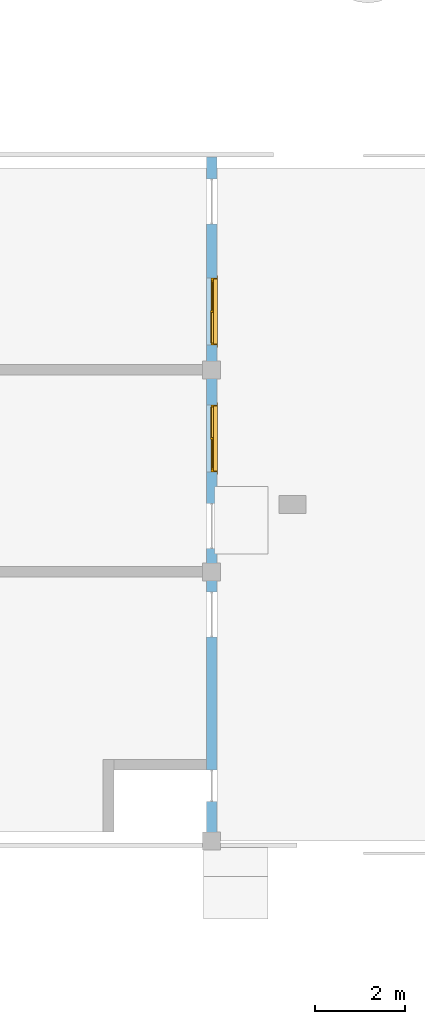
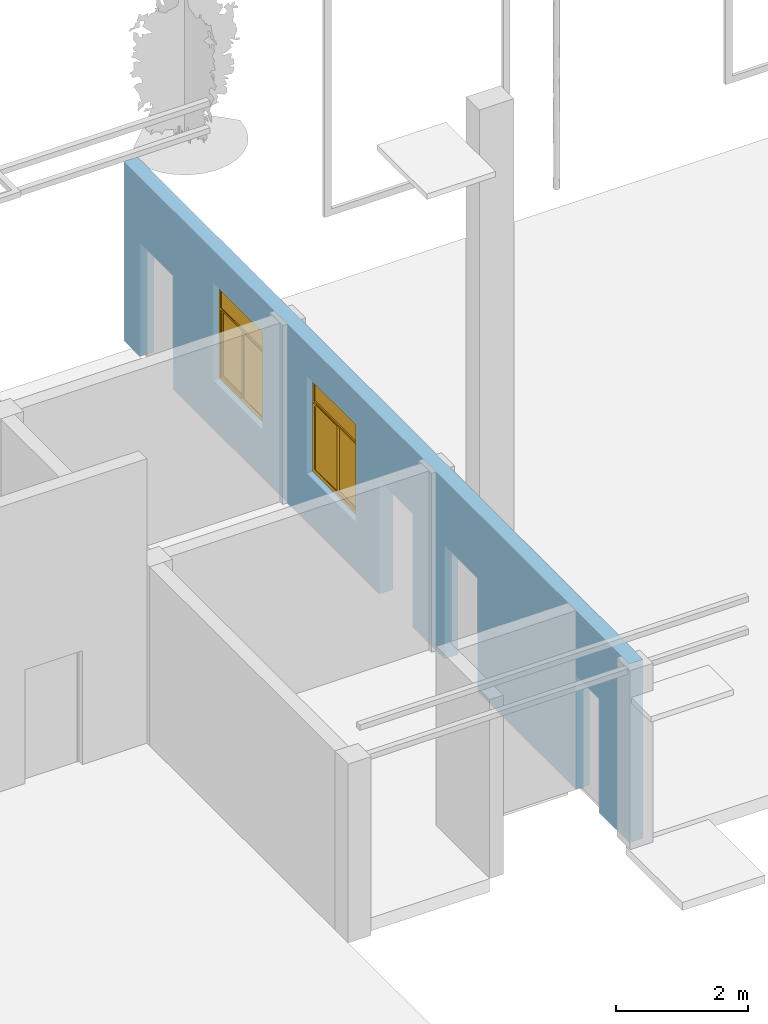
# One storey, part 5 of 14: 2 windows, 6 openings, plus 1 element that does not belong to this part.
"""IFC2X3 building model written with IfcOpenShell, lengths in millimetres."""

from ifc_helpers import new_model, entity, si_unit, converted_unit, derived_unit, direction, frame, frame_2d, origin, place, context, subcontext, project, spatial, rectangle, extrude, faceted_brep, source, transform, mapped, material, material_list, layer, layer_set, layer_usage, type_object, type_shapes, element, fill, save


model = new_model("IFC2X3")

# Units and contexts
model_context = context("Model", 3, precision=0.01, world=origin(), true_north=direction((6.12303176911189e-17, 1.0)))
body_context = subcontext(model_context, "Body", "Model", "MODEL_VIEW")
ifc_project = project(units=[si_unit("LENGTHUNIT", "METRE", prefix="MILLI"), si_unit("AREAUNIT", "SQUARE_METRE"), si_unit("VOLUMEUNIT", "CUBIC_METRE"), converted_unit("PLANEANGLEUNIT", "DEGREE", entity("IfcRatioMeasure", 0.0174532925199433), si_unit("PLANEANGLEUNIT", "RADIAN"), dimensions=[0, 0, 0, 0, 0, 0, 0]), si_unit("MASSUNIT", "GRAM", prefix="KILO"), derived_unit("MASSDENSITYUNIT", [(si_unit("MASSUNIT", "GRAM", prefix="KILO"), 1), (si_unit("LENGTHUNIT", "METRE"), -3)]), si_unit("TIMEUNIT", "SECOND"), si_unit("FREQUENCYUNIT", "HERTZ"), si_unit("THERMODYNAMICTEMPERATUREUNIT", "DEGREE_CELSIUS"), derived_unit("THERMALTRANSMITTANCEUNIT", [(si_unit("MASSUNIT", "GRAM", prefix="KILO"), 1), (si_unit("THERMODYNAMICTEMPERATUREUNIT", "KELVIN"), -1), (si_unit("TIMEUNIT", "SECOND"), -3)]), derived_unit("VOLUMETRICFLOWRATEUNIT", [(si_unit("LENGTHUNIT", "METRE"), 3), (si_unit("TIMEUNIT", "SECOND"), -1)]), si_unit("ELECTRICCURRENTUNIT", "AMPERE"), si_unit("ELECTRICVOLTAGEUNIT", "VOLT"), si_unit("POWERUNIT", "WATT"), si_unit("FORCEUNIT", "NEWTON", prefix="KILO"), si_unit("ILLUMINANCEUNIT", "LUX"), si_unit("LUMINOUSFLUXUNIT", "LUMEN"), si_unit("LUMINOUSINTENSITYUNIT", "CANDELA"), derived_unit("USERDEFINED", [(si_unit("MASSUNIT", "GRAM", prefix="KILO"), -1), (si_unit("LENGTHUNIT", "METRE"), -2), (si_unit("TIMEUNIT", "SECOND"), 3), (si_unit("LUMINOUSFLUXUNIT", "LUMEN"), 1)]), derived_unit("LINEARVELOCITYUNIT", [(si_unit("LENGTHUNIT", "METRE"), 1), (si_unit("TIMEUNIT", "SECOND"), -1)]), si_unit("PRESSUREUNIT", "PASCAL"), derived_unit("USERDEFINED", [(si_unit("LENGTHUNIT", "METRE"), -2), (si_unit("MASSUNIT", "GRAM", prefix="KILO"), 1), (si_unit("TIMEUNIT", "SECOND"), -2)])], contexts=[model_context])

# Site, building, storey
site_placement = place(None, origin())
site = spatial("IfcSite", under=ifc_project, at=site_placement, Name="表面", CompositionType="ELEMENT")
building_placement = place(site_placement, origin())
building = spatial("IfcBuilding", under=site, at=building_placement, CompositionType="ELEMENT")
storey_placement = place(building_placement, origin())
storey = spatial("IfcBuildingStorey", under=building, at=storey_placement, Name="±0.000", CompositionType="ELEMENT", Elevation=0.0)

# Wall, openings, windows
ifc_material_1 = material(Name="砖石建筑 - 砖")
ifc_layer = layer(ifc_material_1, 240.0)
ifc_layer_set = layer_set([ifc_layer], Name="基本墙:内砖墙240mm")
ifc_layer_usage = layer_usage(ifc_layer_set, "AXIS2", "NEGATIVE", 120.0)
wall_type = type_object("IfcWallType", Name="基本墙:内砖墙240mm", PredefinedType="STANDARD", material=ifc_layer_set)
wall_placement = place(storey_placement, frame((-33528.798781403, 15849.6974073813, 0.0), z_axis=(0.0, 0.0, 1.0), x_axis=(0.0, -1.0, 0.0)))
wall = element("IfcWallStandardCase", 1, at=wall_placement, inside=storey, type_object=wall_type, material=ifc_layer_usage, Name="基本墙:内砖墙240mm", ObjectType="基本墙:内砖墙240mm", context=body_context, shape_type="SweptSolid", body=[
    extrude(rectangle(XDim=15280.0, YDim=239.999999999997, at=frame_2d((7639.99999999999, 2.34479102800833e-13), x_axis=(-1.0, 0.0))), origin(), (0.0, 0.0, 1.0), 3300.0),
])
opening_1_placement = place(wall_placement, frame((7720.0, -120.0, 0.0)))
element("IfcOpeningElement", 2, at=opening_1_placement, cuts=wall, Name="单开门:M5:1", ObjectType="Opening", context=body_context, shape_type="SweptSolid", body=[
    extrude(rectangle(XDim=2100.0, YDim=1000.0, at=frame_2d((1050.0, 500.0), x_axis=(1.0, 0.0))), frame((0.0, 0.0, 0.0), z_axis=(0.0, 1.0, 0.0), x_axis=(0.0, 0.0, 1.0)), (0.0, 0.0, 1.0), 240.0),
])
opening_2_placement = place(wall_placement, frame((1490.0, 120.0, 0.0)))
element("IfcOpeningElement", 3, at=opening_2_placement, cuts=wall, Name="单开门:M5:1", ObjectType="Opening", context=body_context, shape_type="SweptSolid", body=[
    extrude(rectangle(XDim=2100.0, YDim=1000.0, at=frame_2d((1050.0, 500.0), x_axis=(1.0, 0.0))), frame((0.0, 0.0, 0.0), z_axis=(0.0, -1.0, 0.0), x_axis=(0.0, 0.0, 1.0)), (0.0, 0.0, 1.0), 240.0),
])
opening_3_placement = place(wall_placement, frame((10690.0021645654, 120.0, 0.0)))
element("IfcOpeningElement", 4, at=opening_3_placement, cuts=wall, Name="单开门:M5:1", ObjectType="Opening", context=body_context, shape_type="SweptSolid", body=[
    extrude(rectangle(XDim=2100.0, YDim=1000.0, at=frame_2d((1050.0, 500.0), x_axis=(1.0, 0.0))), frame((0.0, 0.0, 0.0), z_axis=(0.0, -1.0, 0.0), x_axis=(0.0, 0.0, 1.0)), (0.0, 0.0, 1.0), 240.0),
])
opening_4_placement = place(wall_placement, frame((14360.0, 120.0, 0.0)))
element("IfcOpeningElement", 5, at=opening_4_placement, cuts=wall, Name="单开门:M7:1", ObjectType="Opening", context=body_context, shape_type="SweptSolid", body=[
    extrude(rectangle(XDim=2100.0, YDim=700.0, at=frame_2d((1050.0, 349.999999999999), x_axis=(1.0, 0.0))), frame((0.0, 0.0, 0.0), z_axis=(0.0, -1.0, 0.0), x_axis=(0.0, 0.0, 1.0)), (0.0, 0.0, 1.0), 240.0),
])
opening_5_placement = place(wall_placement, frame((4190.0032002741, 120.0, 900.0)))
opening_5 = element("IfcOpeningElement", 6, at=opening_5_placement, cuts=wall, Name="推拉窗（c-9）:推拉窗（c-9）:1", ObjectType="Opening", context=body_context, shape_type="SweptSolid", body=[
    extrude(rectangle(XDim=1800.0, YDim=1500.0, at=frame_2d((899.999999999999, 750.0), x_axis=(1.0, 0.0))), frame((0.0, 0.0, 0.0), z_axis=(0.0, -1.0, 0.0), x_axis=(0.0, 0.0, 1.0)), (0.0, 0.0, 1.0), 240.0),
])
opening_6_placement = place(wall_placement, frame((7020.00166128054, 120.0, 900.0)))
opening_6 = element("IfcOpeningElement", 7, at=opening_6_placement, cuts=wall, Name="推拉窗（c-9）:推拉窗（c-9）:1", ObjectType="Opening", context=body_context, shape_type="SweptSolid", body=[
    extrude(rectangle(XDim=1800.0, YDim=1500.0, at=frame_2d((899.999999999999, 750.0), x_axis=(1.0, 0.0))), frame((0.0, 0.0, 0.0), z_axis=(0.0, -1.0, 0.0), x_axis=(0.0, 0.0, 1.0)), (0.0, 0.0, 1.0), 240.0),
])
ifc_material_2 = material(Name="玻璃")
ifc_material_3 = material(Name="金属－铝")
ifc_material_4 = material(Name="木质 - 木材")
ifc_material_list_1 = material_list([ifc_material_2, ifc_material_3, ifc_material_4])
ifc_material_list_2 = material_list([ifc_material_2, ifc_material_3, ifc_material_4])
window_style_1 = type_object("IfcWindowStyle", Name="推拉窗（c-9）", ConstructionType="NOTDEFINED", OperationType="NOTDEFINED", ParameterTakesPrecedence=False, Sizeable=False, material=ifc_material_list_2)
shared_shape_1 = source(origin(), body_context, "Body", "Brep", [
    faceted_brep([(1450.0, 114.0, 1330.0), (1450.0, 114.0, 1750.0), (50.0, 114.0, 1750.0), (50.0, 114.0, 1330.0), (1450.0, 120.0, 1330.0), (50.0, 120.0, 1330.0), (50.0, 120.0, 1750.0), (1450.0, 120.0, 1750.0)], [[[0, 1, 2, 3]], [[4, 5, 6, 7]], [[1, 0, 4, 7]], [[2, 1, 7, 6]], [[3, 2, 6, 5]], [[0, 3, 5, 4]]]),
    faceted_brep([(1450.0, 80.0, 1300.0), (1450.0, 80.0, 1330.0), (50.0, 80.0, 1330.0), (50.0, 80.0, 1300.0), (1450.0, 137.0, 1300.0), (50.0, 137.0, 1300.0), (50.0, 137.0, 1330.0), (1450.0, 137.0, 1330.0)], [[[0, 1, 2, 3]], [[4, 5, 6, 7]], [[1, 0, 4, 7]], [[2, 1, 7, 6]], [[3, 2, 6, 5]], [[0, 3, 5, 4]]]),
    faceted_brep([(770.0, 107.0, 1259.0), (1409.0, 107.0, 1259.0), (1409.0, 107.0, 91.0), (770.0, 107.0, 91.0), (770.0, 101.0, 1259.0), (770.0, 101.0, 91.0), (1409.0, 101.0, 91.0), (1409.0, 101.0, 1259.0)], [[[0, 1, 2, 3]], [[4, 5, 6, 7]], [[1, 0, 4, 7]], [[2, 1, 7, 6]], [[3, 2, 6, 5]], [[0, 3, 5, 4]]]),
    faceted_brep([(730.0, 119.0, 1299.0), (1449.0, 119.0, 1299.0), (1449.0, 119.0, 51.0), (730.0, 119.0, 51.0), (770.0, 119.0, 1259.0), (770.0, 119.0, 91.0), (1409.0, 119.0, 91.0), (1409.0, 119.0, 1259.0), (730.0, 89.0, 1299.0), (730.0, 89.0, 51.0), (1449.0, 89.0, 51.0), (1449.0, 89.0, 1299.0), (770.0, 89.0, 1259.0), (1409.0, 89.0, 1259.0), (1409.0, 89.0, 91.0), (770.0, 89.0, 91.0)], [[[0, 1, 2, 3], [4, 5, 6, 7]], [[8, 9, 10, 11], [12, 13, 14, 15]], [[1, 0, 8, 11]], [[2, 1, 11, 10]], [[3, 2, 10, 9]], [[0, 3, 9, 8]], [[5, 4, 12, 15]], [[6, 5, 15, 14]], [[7, 6, 14, 13]], [[4, 7, 13, 12]]]),
    faceted_brep([(730.0, 133.0, 1259.0), (91.0, 133.0, 1259.0), (91.0, 133.0, 91.0), (730.0, 133.0, 91.0), (730.0, 139.0, 1259.0), (730.0, 139.0, 91.0), (91.0, 139.0, 91.0), (91.0, 139.0, 1259.0)], [[[0, 1, 2, 3]], [[4, 5, 6, 7]], [[1, 0, 4, 7]], [[2, 1, 7, 6]], [[3, 2, 6, 5]], [[0, 3, 5, 4]]]),
    faceted_brep([(770.0, 121.0, 1299.0), (51.0, 121.0, 1299.0), (51.0, 121.0, 51.0), (770.0, 121.0, 51.0), (730.0, 121.0, 1259.0), (730.0, 121.0, 91.0), (91.0, 121.0, 91.0), (91.0, 121.0, 1259.0), (770.0, 151.0, 1299.0), (770.0, 151.0, 51.0), (51.0, 151.0, 51.0), (51.0, 151.0, 1299.0), (730.0, 151.0, 1259.0), (91.0, 151.0, 1259.0), (91.0, 151.0, 91.0), (730.0, 151.0, 91.0)], [[[0, 1, 2, 3], [4, 5, 6, 7]], [[8, 9, 10, 11], [12, 13, 14, 15]], [[1, 0, 8, 11]], [[2, 1, 11, 10]], [[3, 2, 10, 9]], [[0, 3, 9, 8]], [[5, 4, 12, 15]], [[6, 5, 15, 14]], [[7, 6, 14, 13]], [[4, 7, 13, 12]]]),
    faceted_brep([(1450.0, 80.0, 1750.0), (1450.0, 137.0, 1750.0), (1450.0, 137.0, 50.0), (1450.0, 80.0, 50.0), (1500.0, 137.0, 1800.0), (1500.0, 80.0, 1800.0), (1500.0, 80.0, 0.0), (1500.0, 137.0, 0.0), (50.0, 137.0, 50.0), (50.0, 80.0, 50.0), (0.0, 80.0, 0.0), (0.0, 137.0, 0.0), (50.0, 137.0, 1750.0), (50.0, 80.0, 1750.0), (0.0, 80.0, 1800.0), (0.0, 137.0, 1800.0)], [[[0, 1, 2, 3]], [[4, 5, 6, 7]], [[3, 2, 8, 9]], [[7, 6, 10, 11]], [[9, 8, 12, 13]], [[11, 10, 14, 15]], [[7, 11, 15, 4], [1, 12, 8, 2]], [[13, 12, 1, 0]], [[3, 9, 13, 0], [5, 14, 10, 6]], [[15, 14, 5, 4]]], outer=[[True], [True], [True], [True], [True], [True], [True, False], [True], [False, True], [True]]),
    faceted_brep([(-55.0, -15.0, 1855.0), (-55.0, 0.0, 1855.0), (-55.0, 0.0, -55.0), (-55.0, -15.0, -55.0), (25.0, 80.0, 1775.0), (25.0, -15.0, 1775.0), (25.0, -15.0, 25.0), (25.0, 80.0, 25.0), (0.0, 0.0, 1800.0), (0.0, 80.0, 1800.0), (0.0, 80.0, 0.0), (0.0, 0.0, 0.0), (1555.0, 0.0, -55.0), (1555.0, -15.0, -55.0), (1475.0, -15.0, 25.0), (1475.0, 80.0, 25.0), (1500.0, 80.0, 0.0), (1500.0, 0.0, 0.0), (1555.0, 0.0, 1855.0), (1555.0, -15.0, 1855.0), (1475.0, -15.0, 1775.0), (1475.0, 80.0, 1775.0), (1500.0, 80.0, 1800.0), (1500.0, 0.0, 1800.0)], [[[0, 1, 2, 3]], [[4, 5, 6, 7]], [[8, 9, 10, 11]], [[3, 2, 12, 13]], [[7, 6, 14, 15]], [[11, 10, 16, 17]], [[13, 12, 18, 19]], [[15, 14, 20, 21]], [[17, 16, 22, 23]], [[11, 17, 23, 8], [1, 18, 12, 2]], [[19, 18, 1, 0]], [[3, 13, 19, 0], [5, 20, 14, 6]], [[21, 20, 5, 4]], [[7, 15, 21, 4], [9, 22, 16, 10]], [[23, 22, 9, 8]]], outer=[[True], [True], [True], [True], [True], [True], [True], [True], [True], [False, True], [True], [True, False], [True], [False, True], [True]]),
])
type_shapes(window_style_1, [shared_shape_1])
window_1_placement = place(opening_5_placement, frame((0.0, 0.0, 0.0), z_axis=(0.0, 0.0, 1.0), x_axis=(-1.0, 0.0, 0.0)))
window_1 = element("IfcWindow", 8, at=window_1_placement, inside=storey, type_object=window_style_1, material=ifc_material_list_1, Name="推拉窗（c-9）:推拉窗（c-9）", ObjectType="推拉窗（c-9）", OverallHeight=1800.0, OverallWidth=1500.0, context=body_context, shape_type="MappedRepresentation", body=[
    mapped(shared_shape_1, transform((0.0, 0.0, 0.0), scale=1.0)),
])
fill(opening_5, window_1)
ifc_material_list_3 = material_list([ifc_material_2, ifc_material_3, ifc_material_4])
ifc_material_list_4 = material_list([ifc_material_2, ifc_material_3, ifc_material_4])
window_style_2 = type_object("IfcWindowStyle", Name="推拉窗（c-9）", ConstructionType="NOTDEFINED", OperationType="NOTDEFINED", ParameterTakesPrecedence=False, Sizeable=False, material=ifc_material_list_4)
shared_shape_2 = source(origin(), body_context, "Body", "Brep", [
    faceted_brep([(50.0, 114.0, 1330.0), (1450.0, 114.0, 1330.0), (1450.0, 114.0, 1750.0), (50.0, 114.0, 1750.0), (50.0, 120.0, 1330.0), (50.0, 120.0, 1750.0), (1450.0, 120.0, 1750.0), (1450.0, 120.0, 1330.0)], [[[0, 1, 2, 3]], [[4, 5, 6, 7]], [[3, 5, 4, 0]], [[2, 6, 5, 3]], [[1, 7, 6, 2]], [[0, 4, 7, 1]]]),
    faceted_brep([(50.0, 80.0, 1300.0), (1450.0, 80.0, 1300.0), (1450.0, 80.0, 1330.0), (50.0, 80.0, 1330.0), (50.0, 137.0, 1300.0), (50.0, 137.0, 1330.0), (1450.0, 137.0, 1330.0), (1450.0, 137.0, 1300.0)], [[[0, 1, 2, 3]], [[4, 5, 6, 7]], [[3, 5, 4, 0]], [[2, 6, 5, 3]], [[1, 7, 6, 2]], [[0, 4, 7, 1]]]),
    faceted_brep([(730.0, 107.0, 1259.0), (730.0, 107.0, 91.0), (91.0, 107.0, 91.0), (91.0, 107.0, 1259.0), (730.0, 101.0, 1259.0), (91.0, 101.0, 1259.0), (91.0, 101.0, 91.0), (730.0, 101.0, 91.0)], [[[0, 1, 2, 3]], [[4, 5, 6, 7]], [[3, 5, 4, 0]], [[2, 6, 5, 3]], [[1, 7, 6, 2]], [[0, 4, 7, 1]]]),
    faceted_brep([(770.0, 119.0, 1299.0), (770.0, 119.0, 51.0), (51.0, 119.0, 51.0), (51.0, 119.0, 1299.0), (730.0, 119.0, 1259.0), (91.0, 119.0, 1259.0), (91.0, 119.0, 91.0), (730.0, 119.0, 91.0), (770.0, 89.0, 1299.0), (51.0, 89.0, 1299.0), (51.0, 89.0, 51.0), (770.0, 89.0, 51.0), (730.0, 89.0, 1259.0), (730.0, 89.0, 91.0), (91.0, 89.0, 91.0), (91.0, 89.0, 1259.0)], [[[0, 1, 2, 3], [4, 5, 6, 7]], [[8, 9, 10, 11], [12, 13, 14, 15]], [[3, 9, 8, 0]], [[2, 10, 9, 3]], [[1, 11, 10, 2]], [[0, 8, 11, 1]], [[7, 13, 12, 4]], [[6, 14, 13, 7]], [[5, 15, 14, 6]], [[4, 12, 15, 5]]]),
    faceted_brep([(770.0, 133.0, 1259.0), (770.0, 133.0, 91.0), (1409.0, 133.0, 91.0), (1409.0, 133.0, 1259.0), (770.0, 139.0, 1259.0), (1409.0, 139.0, 1259.0), (1409.0, 139.0, 91.0), (770.0, 139.0, 91.0)], [[[0, 1, 2, 3]], [[4, 5, 6, 7]], [[3, 5, 4, 0]], [[2, 6, 5, 3]], [[1, 7, 6, 2]], [[0, 4, 7, 1]]]),
    faceted_brep([(730.0, 121.0, 1299.0), (730.0, 121.0, 51.0), (1449.0, 121.0, 51.0), (1449.0, 121.0, 1299.0), (770.0, 121.0, 1259.0), (1409.0, 121.0, 1259.0), (1409.0, 121.0, 91.0), (770.0, 121.0, 91.0), (730.0, 151.0, 1299.0), (1449.0, 151.0, 1299.0), (1449.0, 151.0, 51.0), (730.0, 151.0, 51.0), (770.0, 151.0, 1259.0), (770.0, 151.0, 91.0), (1409.0, 151.0, 91.0), (1409.0, 151.0, 1259.0)], [[[0, 1, 2, 3], [4, 5, 6, 7]], [[8, 9, 10, 11], [12, 13, 14, 15]], [[3, 9, 8, 0]], [[2, 10, 9, 3]], [[1, 11, 10, 2]], [[0, 8, 11, 1]], [[7, 13, 12, 4]], [[6, 14, 13, 7]], [[5, 15, 14, 6]], [[4, 12, 15, 5]]]),
    faceted_brep([(50.0, 80.0, 1750.0), (50.0, 80.0, 50.0), (50.0, 137.0, 50.0), (50.0, 137.0, 1750.0), (0.0, 137.0, 1800.0), (0.0, 137.0, 0.0), (0.0, 80.0, 0.0), (0.0, 80.0, 1800.0), (1450.0, 80.0, 50.0), (1450.0, 137.0, 50.0), (1500.0, 137.0, 0.0), (1500.0, 80.0, 0.0), (1450.0, 80.0, 1750.0), (1450.0, 137.0, 1750.0), (1500.0, 137.0, 1800.0), (1500.0, 80.0, 1800.0)], [[[0, 1, 2, 3]], [[4, 5, 6, 7]], [[1, 8, 9, 2]], [[5, 10, 11, 6]], [[8, 12, 13, 9]], [[10, 14, 15, 11]], [[3, 2, 9, 13], [5, 4, 14, 10]], [[12, 0, 3, 13]], [[1, 0, 12, 8], [7, 6, 11, 15]], [[14, 4, 7, 15]]], outer=[[True], [True], [True], [True], [True], [True], [False, True], [True], [False, True], [True]]),
    faceted_brep([(1555.0, -15.0, 1855.0), (1555.0, -15.0, -55.0), (1555.0, 0.0, -55.0), (1555.0, 0.0, 1855.0), (1475.0, 80.0, 1775.0), (1475.0, 80.0, 25.0), (1475.0, -15.0, 25.0), (1475.0, -15.0, 1775.0), (1500.0, 0.0, 1800.0), (1500.0, 0.0, 0.0), (1500.0, 80.0, 0.0), (1500.0, 80.0, 1800.0), (-55.0, -15.0, -55.0), (-55.0, 0.0, -55.0), (25.0, 80.0, 25.0), (25.0, -15.0, 25.0), (0.0, 0.0, 0.0), (0.0, 80.0, 0.0), (-55.0, -15.0, 1855.0), (-55.0, 0.0, 1855.0), (25.0, 80.0, 1775.0), (25.0, -15.0, 1775.0), (0.0, 0.0, 1800.0), (0.0, 80.0, 1800.0)], [[[0, 1, 2, 3]], [[4, 5, 6, 7]], [[8, 9, 10, 11]], [[1, 12, 13, 2]], [[5, 14, 15, 6]], [[9, 16, 17, 10]], [[12, 18, 19, 13]], [[14, 20, 21, 15]], [[16, 22, 23, 17]], [[3, 2, 13, 19], [9, 8, 22, 16]], [[18, 0, 3, 19]], [[1, 0, 18, 12], [7, 6, 15, 21]], [[20, 4, 7, 21]], [[5, 4, 20, 14], [11, 10, 17, 23]], [[22, 8, 11, 23]]], outer=[[True], [True], [True], [True], [True], [True], [True], [True], [True], [True, False], [True], [True, False], [True], [False, True], [True]]),
])
type_shapes(window_style_2, [shared_shape_2])
window_2_placement = place(opening_6_placement, frame((0.0, 0.0, 0.0), z_axis=(0.0, 0.0, 1.0), x_axis=(-1.0, 0.0, 0.0)))
window_2 = element("IfcWindow", 9, at=window_2_placement, inside=storey, type_object=window_style_2, material=ifc_material_list_3, Name="推拉窗（c-9）:推拉窗（c-9）", ObjectType="推拉窗（c-9）", OverallHeight=1800.0, OverallWidth=1500.0, context=body_context, shape_type="MappedRepresentation", body=[
    mapped(shared_shape_2, transform((0.0, 0.0, 0.0), scale=1.0)),
])
fill(opening_6, window_2)

save(model, "model.ifc")
